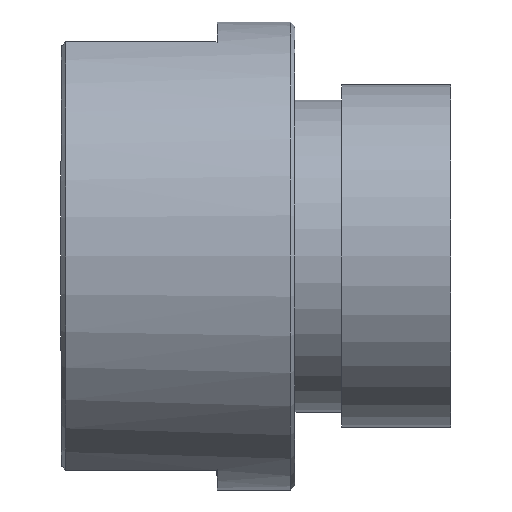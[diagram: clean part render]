
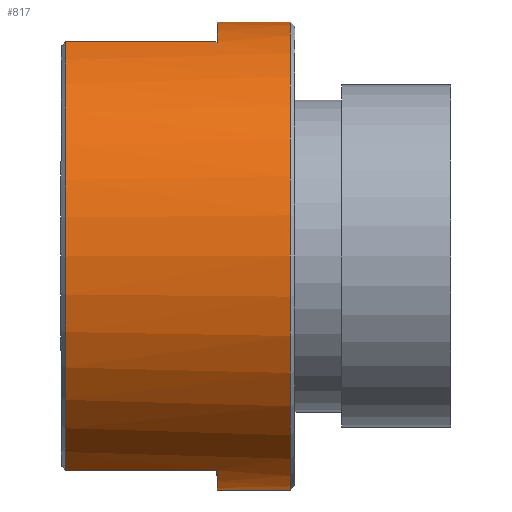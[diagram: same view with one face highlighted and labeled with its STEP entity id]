
A CAD part, left-side view. The second image highlights one B-rep face of the part: STEP entity #817.
In plain terms, the highlighted cylindrical face has radius 15 mm (diameter 30 mm), a partial arc.
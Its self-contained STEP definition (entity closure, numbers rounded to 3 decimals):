
#6 = EDGE_LOOP ( 'NONE', ( #210, #93, #638, #730, #667, #761, #993, #124 ) ) ;
#20 = EDGE_CURVE ( 'NONE', #497, #375, #593, .T. ) ;
#65 = DIRECTION ( 'NONE',  ( 0., -1., 0. ) ) ;
#72 = DIRECTION ( 'NONE',  ( 0., 0., 1. ) ) ;
#81 = VERTEX_POINT ( 'NONE', #720 ) ;
#93 = ORIENTED_EDGE ( 'NONE', *, *, #436, .T. ) ;
#116 = CARTESIAN_POINT ( 'NONE',  ( 0., 0.3, 0. ) ) ;
#117 = LINE ( 'NONE', #487, #168 ) ;
#124 = ORIENTED_EDGE ( 'NONE', *, *, #791, .T. ) ;
#138 = VERTEX_POINT ( 'NONE', #887 ) ;
#144 = DIRECTION ( 'NONE',  ( 0., 0., -1. ) ) ;
#157 = CIRCLE ( 'NONE', #876, 15. ) ;
#168 = VECTOR ( 'NONE', #179, 1000. ) ;
#170 = VERTEX_POINT ( 'NONE', #401 ) ;
#179 = DIRECTION ( 'NONE',  ( 0., 1., 0. ) ) ;
#210 = ORIENTED_EDGE ( 'NONE', *, *, #583, .F. ) ;
#217 = VECTOR ( 'NONE', #316, 1000. ) ;
#238 = VERTEX_POINT ( 'NONE', #807 ) ;
#250 = CARTESIAN_POINT ( 'NONE',  ( 0., 15., 15. ) ) ;
#269 = DIRECTION ( 'NONE',  ( 0., -1., 0. ) ) ;
#270 = VECTOR ( 'NONE', #483, 1000. ) ;
#274 = DIRECTION ( 'NONE',  ( 0., 0., -1. ) ) ;
#279 = DIRECTION ( 'NONE',  ( 0., 0., 1. ) ) ;
#283 = CARTESIAN_POINT ( 'NONE',  ( -6., 14.7, -13.748 ) ) ;
#296 = CARTESIAN_POINT ( 'NONE',  ( 0., 5., 0. ) ) ;
#308 = CARTESIAN_POINT ( 'NONE',  ( -6., 15., 13.748 ) ) ;
#316 = DIRECTION ( 'NONE',  ( 0., -1., 0. ) ) ;
#318 = LINE ( 'NONE', #250, #569 ) ;
#319 = CARTESIAN_POINT ( 'NONE',  ( 0., 15., -15. ) ) ;
#321 = AXIS2_PLACEMENT_3D ( 'NONE', #694, #65, #144 ) ;
#330 = EDGE_CURVE ( 'NONE', #81, #625, #534, .T. ) ;
#345 = CARTESIAN_POINT ( 'NONE',  ( 0., 15., 0. ) ) ;
#350 = CARTESIAN_POINT ( 'NONE',  ( -6., 14.7, 13.748 ) ) ;
#355 = AXIS2_PLACEMENT_3D ( 'NONE', #296, #851, #698 ) ;
#375 = VERTEX_POINT ( 'NONE', #350 ) ;
#401 = CARTESIAN_POINT ( 'NONE',  ( 0., 5., 15. ) ) ;
#427 = AXIS2_PLACEMENT_3D ( 'NONE', #857, #627, #72 ) ;
#429 = EDGE_CURVE ( 'NONE', #375, #1004, #714, .T. ) ;
#436 = EDGE_CURVE ( 'NONE', #170, #497, #871, .T. ) ;
#483 = DIRECTION ( 'NONE',  ( 0., 1., 0. ) ) ;
#487 = CARTESIAN_POINT ( 'NONE',  ( -6., 15., -13.748 ) ) ;
#497 = VERTEX_POINT ( 'NONE', #529 ) ;
#529 = CARTESIAN_POINT ( 'NONE',  ( -6., 5., 13.748 ) ) ;
#534 = CIRCLE ( 'NONE', #355, 15. ) ;
#541 = LINE ( 'NONE', #319, #217 ) ;
#569 = VECTOR ( 'NONE', #950, 1000. ) ;
#583 = EDGE_CURVE ( 'NONE', #170, #138, #318, .T. ) ;
#593 = LINE ( 'NONE', #308, #270 ) ;
#596 = EDGE_CURVE ( 'NONE', #81, #238, #541, .T. ) ;
#625 = VERTEX_POINT ( 'NONE', #944 ) ;
#627 = DIRECTION ( 'NONE',  ( 0., -1., 0. ) ) ;
#638 = ORIENTED_EDGE ( 'NONE', *, *, #20, .T. ) ;
#667 = ORIENTED_EDGE ( 'NONE', *, *, #707, .F. ) ;
#694 = CARTESIAN_POINT ( 'NONE',  ( 0., 5., 0. ) ) ;
#698 = DIRECTION ( 'NONE',  ( -1., 0., 0. ) ) ;
#707 = EDGE_CURVE ( 'NONE', #625, #1004, #117, .T. ) ;
#714 = CIRCLE ( 'NONE', #427, 15. ) ;
#720 = CARTESIAN_POINT ( 'NONE',  ( 0., 5., -15. ) ) ;
#730 = ORIENTED_EDGE ( 'NONE', *, *, #429, .T. ) ;
#761 = ORIENTED_EDGE ( 'NONE', *, *, #330, .F. ) ;
#791 = EDGE_CURVE ( 'NONE', #238, #138, #157, .T. ) ;
#807 = CARTESIAN_POINT ( 'NONE',  ( 0., 0.3, -15. ) ) ;
#810 = CYLINDRICAL_SURFACE ( 'NONE', #994, 15. ) ;
#817 = ADVANCED_FACE ( 'NONE', ( #979 ), #810, .T. ) ;
#851 = DIRECTION ( 'NONE',  ( 0., 1., 0. ) ) ;
#857 = CARTESIAN_POINT ( 'NONE',  ( 0., 14.7, 0. ) ) ;
#871 = CIRCLE ( 'NONE', #321, 15. ) ;
#876 = AXIS2_PLACEMENT_3D ( 'NONE', #116, #904, #279 ) ;
#887 = CARTESIAN_POINT ( 'NONE',  ( 0., 0.3, 15. ) ) ;
#904 = DIRECTION ( 'NONE',  ( 0., 1., 0. ) ) ;
#944 = CARTESIAN_POINT ( 'NONE',  ( -6., 5., -13.748 ) ) ;
#950 = DIRECTION ( 'NONE',  ( 0., -1., 0. ) ) ;
#979 = FACE_OUTER_BOUND ( 'NONE', #6, .T. ) ;
#993 = ORIENTED_EDGE ( 'NONE', *, *, #596, .T. ) ;
#994 = AXIS2_PLACEMENT_3D ( 'NONE', #345, #269, #274 ) ;
#1004 = VERTEX_POINT ( 'NONE', #283 ) ;
